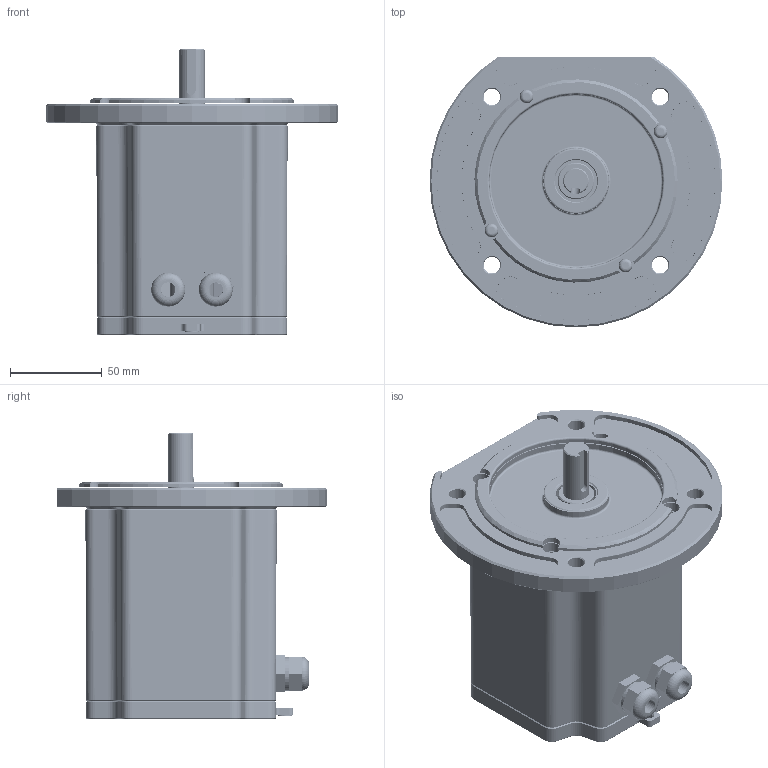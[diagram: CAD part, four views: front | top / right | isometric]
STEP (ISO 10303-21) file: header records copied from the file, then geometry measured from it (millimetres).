
FILE_DESCRIPTION (( 'STEP AP214' ), '1' );
FILE_NAME ('K16¡àK750N¡à.STEP', '2025-01-23T10:41:26', ( 'frvao@naver.com' ), ( '' ), 'SwSTEP 2.0', 'SolidWorks 2022', '' );
FILE_SCHEMA (( 'AUTOMOTIVE_DESIGN' ));
Length unit declared in the file: millimetre
Products named in the file (30): S-CORE.ipt.STEP; S-CORE ASS''''Y.iam.STEP; BS 290 SKF - SKF 6203-2Z.ipt.STEP; 400W __________A (______)(160913).ipt.STEP; PCB ASS''''Y.iam.STEP; M-CASE.ipt.STEP; BS 290 SKF - SKF 6304-2Z.ipt.STEP; SHAFT.STEP; CABLE GRAND.ipt.STEP; HALL IC HOLDER.ipt.STEP; R-ASS''''Y.iam.STEP; だお33; AS 1420 - 1973 - M4 x 8.ipt.STEP; REAR-COVER.ipt.STEP; K16¡àK750N¡à; CORE ASS''''Y.iam.STEP; K16 R-SHAFT; HALL IC.ipt.STEP; 400W __________ B (______)(160920).ipt.STEP; SHAFT.ipt.STEP; KGM IEC FRONT COVER pi160; K10¡àK750N¡à.STEP; PCB PIN.ipt.STEP; MAGNET.ipt.STEP; ______.iam.STEP; HALL PCB-RE01(161226).ipt.STEP; FRONT-COVER.ipt.STEP
Assembly tree (193 placements, depth 6):
  K16¡àK750N¡à
    K10¡àK750N¡à.STEP
      ______.iam.STEP
        R-ASS''''Y.iam.STEP
          SHAFT.ipt.STEP
          MAGNET.ipt.STEP
          BS 290 SKF - SKF 6304-2Z.ipt.STEP
          BS 290 SKF - SKF 6203-2Z.ipt.STEP
        CORE ASS''''Y.iam.STEP
          S-CORE ASS''''Y.iam.STEP
            S-CORE.ipt.STEP  x143
          400W __________A (______)(160913).ipt.STEP
          400W __________ B (______)(160920).ipt.STEP
          PCB PIN.ipt.STEP  x12
        PCB ASS''''Y.iam.STEP
          HALL PCB-RE01(161226).ipt.STEP
          HALL IC HOLDER.ipt.STEP  x3
          HALL IC.ipt.STEP  x3
        M-CASE.ipt.STEP
        FRONT-COVER.ipt.STEP
        CABLE GRAND.ipt.STEP  x2
        REAR-COVER.ipt.STEP
        AS 1420 - 1973 - M4 x 8.ipt.STEP
        AS 1420 - 1973 - M4 x 8.ipt.STEP
        AS 1420 - 1973 - M4 x 8.ipt.STEP
        AS 1420 - 1973 - M4 x 8.ipt.STEP  x4
      SHAFT.STEP
    KGM IEC FRONT COVER pi160
    だお33  x4
    K16 R-SHAFT
Bounding box: 160 x 148 x 156 mm (x, y, z)
Volume: 944180.5 mm3; surface area: 1452436.3 mm2
Topology: 191 solids, 191 shells, 36003 faces, 105505 edges, 69963 vertices
Faces by surface type: plane 18019, cylinder 17068, bspline 321, torus 308, cone 215, sphere 72
Entity records: 177044 total; most frequent: CARTESIAN_POINT 58155, ORIENTED_EDGE 24888, DIRECTION 24014, EDGE_CURVE 12444, AXIS2_PLACEMENT_3D 8478, VERTEX_POINT 8015, VECTOR 7058, LINE 7058
